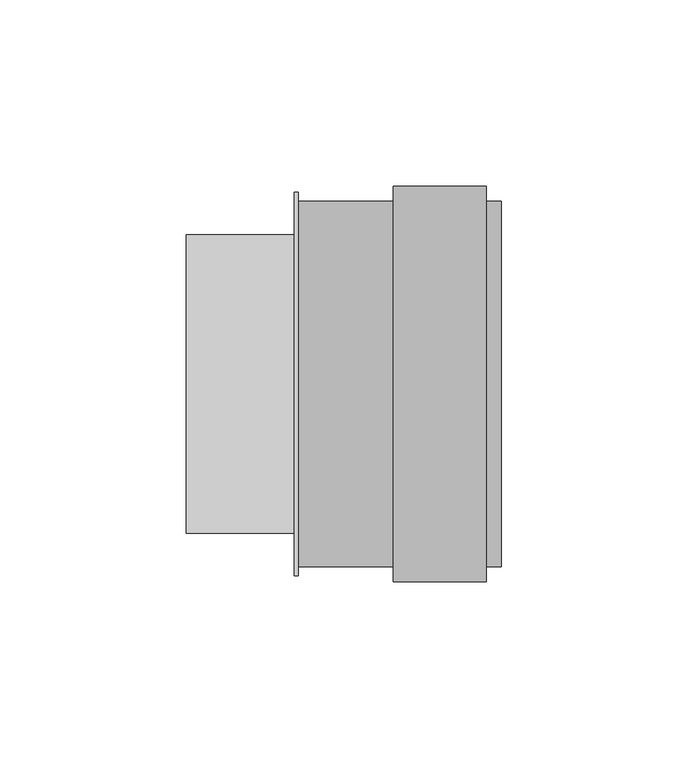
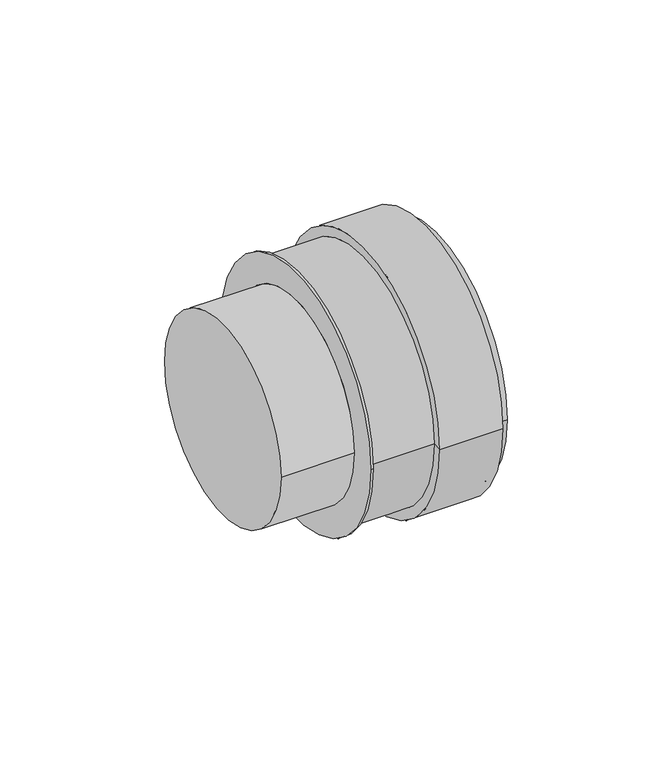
"""IFC4 building model written with IfcOpenShell, lengths in millimetres: duct fitting geometry, NLRS_57_DUF_UN_connection piece round_M&G : ø92."""

from ifc_helpers import new_model, si_unit, frame, origin, place, context, project, spatial, polyline, circle_curve, source, transform, mapped, element, save
from ifc_brep_helpers import plane_surface, cylinder_surface, revolved_surface, advanced_brep


def duct_fitting_f3df8d97(model_context):
    return source(origin(), model_context, "Body", "AdvancedBrep", [
        advanced_brep(
        [(0.0, -49.0, 0.0), (0.0, 49.0, 0.0), (54.5, -49.0, 0.0), (54.5, 49.0, 0.0), (54.5, -47.0, 0.0), (54.5, 47.0, 0.0), (25.5, -49.0, 0.0), (25.5, 49.0, 0.0), (50.5, 49.0, 0.0), (50.5, -49.0, 0.0), (2.0, 47.0, 0.0), (2.0, -47.0, 0.0), (50.5, -53.0, 0.0), (50.5, 53.0, 0.0), (25.5, -53.0, 0.0), (25.5, 53.0, 0.0)],
        [
            (0, 1, circle_curve(frame((0.0, 0.0, 0.0), z_axis=(-1.0, 0.0, 0.0), x_axis=(0.0, 1.0, 0.0)), 49.0)),
            (1, 0, circle_curve(frame((0.0, 0.0, 0.0), z_axis=(-1.0, 0.0, 0.0), x_axis=(0.0, 1.0, 0.0)), 49.0)),
            (2, 3, circle_curve(frame((54.5, 0.0, 0.0), z_axis=(1.0, 0.0, 0.0), x_axis=(0.0, 1.0, 0.0)), 49.0)),
            (3, 2, circle_curve(frame((54.5, 0.0, 0.0), z_axis=(1.0, 0.0, 0.0), x_axis=(0.0, 1.0, 0.0)), 49.0)),
            (4, 5, circle_curve(frame((54.5, 0.0, 0.0), z_axis=(-1.0, 0.0, 0.0), x_axis=(0.0, -1.0, 0.0)), 47.0)),
            (5, 4, circle_curve(frame((54.5, 0.0, 0.0), z_axis=(-1.0, 0.0, 0.0), x_axis=(0.0, -1.0, 0.0)), 47.0)),
            (0, 6),
            (6, 7, circle_curve(frame((25.5, 0.0, 0.0), z_axis=(-1.0, 0.0, 0.0), x_axis=(0.0, 1.0, 0.0)), 49.0)),
            (7, 1),
            (3, 8),
            (8, 9, circle_curve(frame((50.5, 0.0, 0.0), z_axis=(1.0, 0.0, 0.0), x_axis=(0.0, 1.0, 0.0)), 49.0)),
            (9, 2),
            (7, 6, circle_curve(frame((25.5, 0.0, 0.0), z_axis=(-1.0, 0.0, 0.0), x_axis=(0.0, 1.0, 0.0)), 49.0)),
            (9, 8, circle_curve(frame((50.5, 0.0, 0.0), z_axis=(1.0, 0.0, 0.0), x_axis=(0.0, 1.0, 0.0)), 49.0)),
            (10, 11, circle_curve(frame((2.0, 0.0, 0.0), z_axis=(1.0, 0.0, 0.0), x_axis=(0.0, -1.0, 0.0)), 47.0)),
            (11, 10, circle_curve(frame((2.0, 0.0, 0.0), z_axis=(1.0, 0.0, 0.0), x_axis=(0.0, -1.0, 0.0)), 47.0)),
            (10, 5),
            (4, 11),
            (12, 13, circle_curve(frame((50.5, 0.0, 0.0), z_axis=(1.0, 0.0, 0.0), x_axis=(0.0, 1.0, 0.0)), 53.0)),
            (13, 8),
            (9, 12),
            (13, 12, circle_curve(frame((50.5, 0.0, 0.0), z_axis=(1.0, 0.0, 0.0), x_axis=(0.0, 1.0, 0.0)), 53.0)),
            (12, 14),
            (14, 15, circle_curve(frame((25.5, 0.0, 0.0), z_axis=(1.0, 0.0, 0.0), x_axis=(0.0, 1.0, 0.0)), 53.0)),
            (15, 13),
            (15, 14, circle_curve(frame((25.5, 0.0, 0.0), z_axis=(1.0, 0.0, 0.0), x_axis=(0.0, 1.0, 0.0)), 53.0)),
            (14, 6),
            (7, 15),
        ],
        [
            plane_surface(frame((0.0, 0.0, 0.0), z_axis=(-1.0, 0.0, 0.0), x_axis=(0.0, 0.0, 1.0))),
            plane_surface(frame((54.5, 0.0, 0.0), z_axis=(1.0, 0.0, 0.0), x_axis=(0.0, 0.0, 1.0))),
            cylinder_surface(frame((0.0, 0.0, 0.0), z_axis=(-1.0, 0.0, 0.0), x_axis=(0.0, 1.0, 0.0)), 49.0),
            plane_surface(frame((2.0, 0.0, 0.0), z_axis=(1.0, 0.0, 0.0), x_axis=(0.0, 0.0, 1.0))),
            revolved_surface(polyline([(54.5, -47.0, 0.0), (2.0, -47.0, 0.0)]), (54.5, 0.0, 0.0), (1.0, 0.0, 0.0)),
            plane_surface(frame((50.5, 0.0, 0.0), z_axis=(1.0, 0.0, 0.0), x_axis=(0.0, 1.0, 0.0))),
            cylinder_surface(frame((15.5, 0.0, 0.0), z_axis=(-1.0, 0.0, 0.0), x_axis=(0.0, 1.0, 0.0)), 53.0),
            plane_surface(frame((25.5, 0.0, 0.0), z_axis=(-1.0, 0.0, 0.0), x_axis=(0.0, 1.0, 0.0))),
        ],
        [
            (0, [[1, 2]]),
            (1, [[3, 4], [5, 6]]),
            (2, [[-1, 7, 8, 9]]),
            (2, [[-4, 10, 11, 12]]),
            (2, [[-2, -9, 13, -7]]),
            (2, [[-3, -12, 14, -10]]),
            (3, [[15, 16]]),
            (4, [[-15, 17, -5, 18]]),
            (4, [[-16, -18, -6, -17]]),
            (5, [[19, 20, -14, 21]]),
            (5, [[-20, 22, -21, -11]]),
            (6, [[-19, 23, 24, 25]]),
            (6, [[-22, -25, 26, -23]]),
            (7, [[-24, 27, -13, 28]]),
            (7, [[-26, -28, -8, -27]]),
        ],
    ),
        advanced_brep(
        [(-1.0, -51.5, 0.0), (-1.0, 51.5, 0.0), (-1.0, 40.0, 0.0), (-1.0, -40.0, 0.0), (0.0, -51.5, 0.0), (0.0, 51.5, 0.0), (-30.0, 40.0, 0.0), (-30.0, -40.0, 0.0)],
        [
            (0, 1, circle_curve(frame((-1.0, 0.0, 0.0), z_axis=(-1.0, 0.0, 0.0), x_axis=(0.0, 1.0, 0.0)), 51.5)),
            (1, 0, circle_curve(frame((-1.0, 0.0, 0.0), z_axis=(-1.0, 0.0, 0.0), x_axis=(0.0, 1.0, 0.0)), 51.5)),
            (2, 3, circle_curve(frame((-1.0, 0.0, 0.0), z_axis=(1.0, 0.0, 0.0), x_axis=(0.0, -1.0, 0.0)), 40.0)),
            (3, 2, circle_curve(frame((-1.0, 0.0, 0.0), z_axis=(1.0, 0.0, 0.0), x_axis=(0.0, -1.0, 0.0)), 40.0)),
            (4, 5, circle_curve(frame((0.0, 0.0, 0.0), z_axis=(1.0, 0.0, 0.0), x_axis=(0.0, 1.0, 0.0)), 51.5)),
            (5, 4, circle_curve(frame((0.0, 0.0, 0.0), z_axis=(1.0, 0.0, 0.0), x_axis=(0.0, 1.0, 0.0)), 51.5)),
            (1, 5),
            (4, 0),
            (6, 7, circle_curve(frame((-30.0, 0.0, 0.0), z_axis=(-1.0, 0.0, 0.0), x_axis=(0.0, -1.0, 0.0)), 40.0)),
            (7, 6, circle_curve(frame((-30.0, 0.0, 0.0), z_axis=(-1.0, 0.0, 0.0), x_axis=(0.0, -1.0, 0.0)), 40.0)),
            (7, 3),
            (2, 6),
        ],
        [
            plane_surface(frame((-1.0, 51.5, 0.0), z_axis=(-1.0, 0.0, 0.0), x_axis=(0.0, 0.0, -1.0))),
            plane_surface(frame((0.0, 51.5, 0.0), z_axis=(1.0, 0.0, 0.0), x_axis=(0.0, 0.0, 1.0))),
            cylinder_surface(frame((-1.0, 0.0, 0.0), z_axis=(1.0, 0.0, 0.0), x_axis=(0.0, 1.0, 0.0)), 51.5),
            plane_surface(frame((-30.0, 0.0, 0.0), z_axis=(-1.0, 0.0, 0.0), x_axis=(0.0, 0.0, 1.0))),
            cylinder_surface(frame((0.0, 0.0, 0.0), z_axis=(1.0, 0.0, 0.0), x_axis=(0.0, -1.0, 0.0)), 40.0),
        ],
        [
            (0, [[1, 2], [3, 4]]),
            (1, [[5, 6]]),
            (2, [[-2, 7, -5, 8]]),
            (2, [[-1, -8, -6, -7]]),
            (3, [[9, 10]]),
            (4, [[-10, 11, -3, 12]]),
            (4, [[-9, -12, -4, -11]]),
        ],
    ),
    ])


if __name__ == "__main__":
    model = new_model("IFC4")
    model_context = context("Model", 3, world=origin())
    ifc_project = project(units=[si_unit("LENGTHUNIT", "METRE", prefix="MILLI")], contexts=[model_context])
    site = spatial("IfcSite", under=ifc_project)
    building = spatial("IfcBuilding", under=site)
    placement = place(None, origin())
    duct_fitting_shape = duct_fitting_f3df8d97(model_context)
    element("IfcDuctFitting", 1, ObjectType="NLRS_57_DUF_UN_connection piece round_M&G : ø92", at=placement, inside=building, context=model_context, shape_type="MappedRepresentation", body=[
        mapped(duct_fitting_shape, transform((0.0, 0.0, 0.0), x_axis=(1.0, 0.0, 0.0), y_axis=(0.0, 1.0, 0.0), z_axis=(0.0, 0.0, 1.0))),
    ])
    save(model, "model.ifc")
